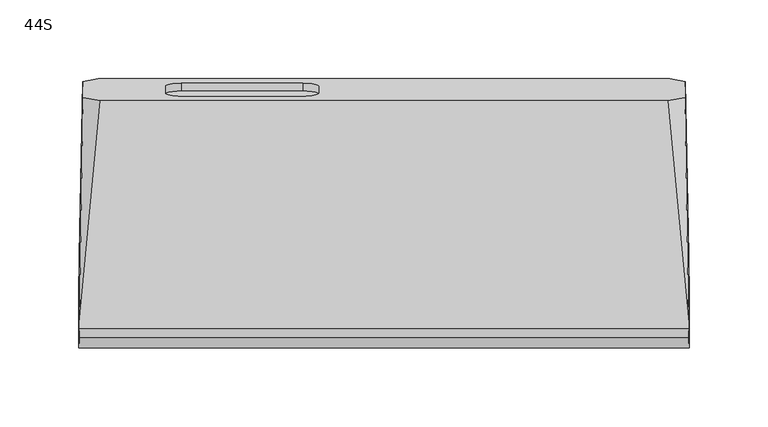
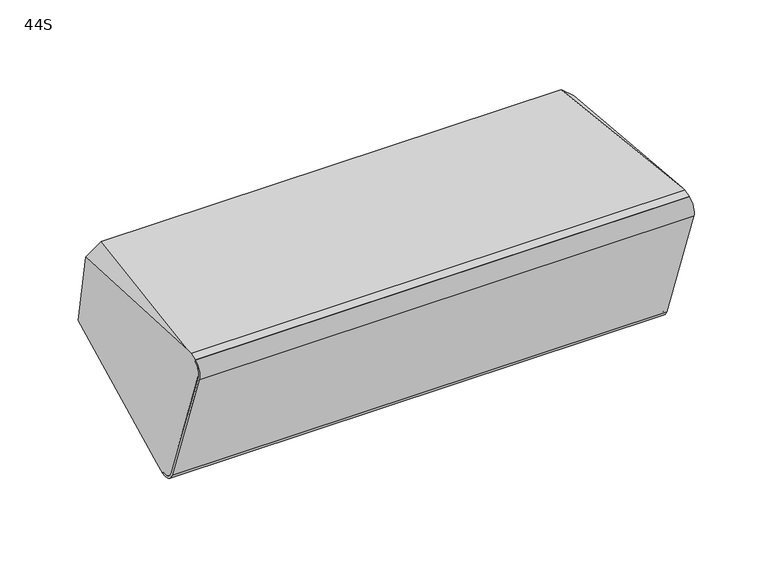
"""IFC4 building model written with IfcOpenShell, lengths in millimetres: proxy geometry, d&b xS-Series 44S Point Source : 44S."""

from ifc_helpers import new_model, si_unit, frame, origin, place, context, project, spatial, polyline, circle_curve, ellipse_curve, source, transform, mapped, element, save
from ifc_brep_helpers import plane_surface, cylinder_surface, revolved_surface, advanced_brep


def proxy_44s_be1570ec(model_context):
    return source(origin(), model_context, "Body", "AdvancedBrep", [
        advanced_brep(
        [(-193.2924342, -40.1304238, -82.7136572), (-193.2924342, -40.7995779, -80.8751713), (-193.4294708, -51.0085421, -76.1146532), (-193.4294708, -87.9735419, 25.4458491), (-193.2918337, -83.1921621, 35.6995512), (-193.2918337, -83.8762023, 37.5789364), (-193.1898069, -78.3036462, 39.607181), (-193.132384, -74.7519113, 39.6074739), (-190.8800877, 68.2424569, 29.4951651), (-191.0574064, 78.5489013, -28.955586), (-193.132384, -31.3887128, -79.5319346), (193.2924342, -40.7995779, -80.8751713), (193.2924342, -40.1304238, -82.7136572), (193.132384, -31.3887128, -79.5319346), (191.0574064, 78.5489013, -28.955586), (190.8800877, 68.2424569, 29.4951651), (193.132384, -74.7519113, 39.6074739), (193.1898069, -78.3036462, 39.607181), (193.2918337, -83.8762023, 37.5789364), (193.2918337, -83.1921621, 35.6995512), (193.4294708, -87.9735419, 25.4458491), (193.4294708, -51.0085421, -76.1146532), (-181.3061997, 80.2990071, -38.880929), (181.3061997, 80.2990071, -38.880929), (179.9289467, 66.4573306, 39.6191191), (-179.9289467, 66.4573306, 39.6191191), (-138.5, 71.1207426, 13.1715959), (-138.5, 75.6355952, -12.4334057), (-128.5, 77.372077, -22.2814833), (-51.5, 77.372077, -22.2814833), (-41.5, 75.6355952, -12.4334057), (-41.5, 71.1207426, 13.1715959), (-51.5, 69.3842608, 23.0196734), (-128.5, 69.3842608, 23.0196734), (-138.5, 66.1967038, 12.303355), (-128.5, 64.460222, 22.1514325), (-51.5, 64.460222, 22.1514325), (-41.5, 66.1967038, 12.303355), (-41.5, 70.7115564, -13.3016466), (-51.5, 72.4480382, -23.1497241), (-128.5, 72.4480382, -23.1497241), (-138.5, 70.7115564, -13.3016466)],
        [
            (0, 1),
            (1, 2, ellipse_curve(frame((-193.2924342, -43.5238009, -73.3904302), z_axis=(-0.999852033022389, 0.016164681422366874, 0.005883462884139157), x_axis=(-0.017202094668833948, -0.9395535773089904, -0.3419695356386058)), 7.9662739, 7.9650952)),
            (2, 3),
            (3, 4, ellipse_curve(frame((-193.2918337, -80.4560009, 28.1820102), z_axis=(-0.999852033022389, 0.016164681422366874, 0.005883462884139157), x_axis=(-0.017202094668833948, -0.9395535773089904, -0.3419695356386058)), 8.0011839, 8.0)),
            (4, 5),
            (5, 6),
            (6, 7),
            (7, 8),
            (8, 9),
            (9, 10),
            (10, 0),
            (11, 12),
            (12, 13),
            (13, 14),
            (14, 15),
            (15, 16),
            (16, 17),
            (17, 18),
            (18, 19),
            (19, 20, ellipse_curve(frame((193.2918337, -80.4560009, 28.1820102), z_axis=(0.9998520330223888, 0.01616468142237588, 0.005883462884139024), x_axis=(-0.017202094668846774, 0.9395535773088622, 0.3419695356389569)), 8.0011839, 8.0)),
            (20, 21),
            (21, 11, ellipse_curve(frame((193.2924342, -43.5238009, -73.3904302), z_axis=(0.9998520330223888, 0.01616468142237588, 0.005883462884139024), x_axis=(-0.017202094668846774, 0.9395535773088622, 0.3419695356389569)), 7.9662739, 7.9650952)),
            (0, 12),
            (11, 1),
            (21, 2),
            (20, 3),
            (19, 4),
            (18, 5),
            (17, 6),
            (10, 22),
            (22, 23),
            (23, 13),
            (16, 24),
            (24, 25),
            (25, 7),
            (9, 22),
            (23, 14),
            (15, 24),
            (25, 8),
            (26, 27),
            (27, 28, circle_curve(frame((-128.5, 75.6355952, -12.4334057), z_axis=(0.0, -0.9848077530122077, -0.17364817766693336), x_axis=(0.0, -0.17364817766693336, 0.9848077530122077)), 10.0)),
            (28, 29),
            (29, 30, circle_curve(frame((-51.5, 75.6355952, -12.4334057), z_axis=(0.0, -0.9848077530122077, -0.17364817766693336), x_axis=(0.0, -0.17364817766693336, 0.9848077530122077)), 10.0)),
            (30, 31),
            (31, 32, circle_curve(frame((-51.5, 71.1207426, 13.1715959), z_axis=(0.0, -0.9848077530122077, -0.17364817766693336), x_axis=(0.0, -0.17364817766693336, 0.9848077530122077)), 10.0)),
            (32, 33),
            (33, 26, circle_curve(frame((-128.5, 71.1207426, 13.1715959), z_axis=(0.0, -0.9848077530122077, -0.17364817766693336), x_axis=(0.0, -0.17364817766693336, 0.9848077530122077)), 10.0)),
            (34, 35, circle_curve(frame((-128.5, 66.1967038, 12.303355), z_axis=(0.0, 0.9848077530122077, 0.17364817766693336), x_axis=(0.0, -0.17364817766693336, 0.9848077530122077)), 10.0)),
            (35, 36),
            (36, 37, circle_curve(frame((-51.5, 66.1967038, 12.303355), z_axis=(0.0, 0.9848077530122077, 0.17364817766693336), x_axis=(0.0, -0.17364817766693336, 0.9848077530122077)), 10.0)),
            (37, 38),
            (38, 39, circle_curve(frame((-51.5, 70.7115564, -13.3016466), z_axis=(0.0, 0.9848077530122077, 0.17364817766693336), x_axis=(0.0, -0.17364817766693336, 0.9848077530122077)), 10.0)),
            (39, 40),
            (40, 41, circle_curve(frame((-128.5, 70.7115564, -13.3016466), z_axis=(0.0, 0.9848077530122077, 0.17364817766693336), x_axis=(0.0, -0.17364817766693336, 0.9848077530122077)), 10.0)),
            (41, 34),
            (41, 27),
            (26, 34),
            (40, 28),
            (39, 29),
            (38, 30),
            (37, 31),
            (36, 32),
            (35, 33),
        ],
        [
            plane_surface(frame((-193.8309972, -125.6372625, 60.6895534), z_axis=(-0.999852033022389, 0.016164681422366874, 0.005883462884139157), x_axis=(0.0, 0.3420201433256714, -0.9396926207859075))),
            plane_surface(frame((190.7119283, 44.7217815, 122.6951745), z_axis=(0.999852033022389, 0.016164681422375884, 0.005883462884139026), x_axis=(0.0, 0.3420201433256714, -0.9396926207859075))),
            plane_surface(frame((-207.1452552, -40.1304238, -82.7136572), z_axis=(0.0, -0.9396926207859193, -0.34202014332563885), x_axis=(1.0, 0.0, 0.0))),
            cylinder_surface(frame((207.1452552, -43.5238009, -73.3904302), z_axis=(-1.0, 0.0, 0.0), x_axis=(0.0, 0.3420201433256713, -0.9396926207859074)), 7.9650952),
            plane_surface(frame((-207.1452552, -51.0085421, -76.1146532), z_axis=(0.0, -0.9396926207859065, -0.342020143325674), x_axis=(1.0, 0.0, 0.0))),
            cylinder_surface(frame((207.1452552, -80.4560009, 28.1820102), z_axis=(-1.0, 0.0, 0.0), x_axis=(0.0, 0.3420201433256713, -0.9396926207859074)), 8.0),
            plane_surface(frame((-207.1452552, -83.1921621, 35.6995512), z_axis=(0.0, -0.9396926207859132, -0.34202014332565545), x_axis=(1.0, 0.0, 0.0))),
            plane_surface(frame((-207.1452552, -83.8762023, 37.5789364), z_axis=(0.0, -0.3420201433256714, 0.9396926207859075), x_axis=(1.0, 0.0, 0.0))),
            plane_surface(frame((-207.1452552, -34.5250679, -80.6734745), z_axis=(0.0, 0.3420201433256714, -0.9396926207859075), x_axis=(1.0, 0.0, 0.0))),
            plane_surface(frame((0.0, 66.4573306, 39.6191191), z_axis=(0.0, -8.246800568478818e-05, 0.9999999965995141), x_axis=(-1.0, 0.0, 0.0))),
            plane_surface(frame((-186.6967137, 90.9912157, -27.7871762), z_axis=(-0.7053631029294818, 0.3071997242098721, -0.6388201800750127), x_axis=(0.7071067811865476, 0.2418447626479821, -0.6644630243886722))),
            plane_surface(frame((186.6967137, 90.9912157, -27.7871762), z_axis=(0.7053631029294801, 0.3071997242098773, -0.6388201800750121), x_axis=(0.7071067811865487, -0.24184476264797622, 0.6644630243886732))),
            plane_surface(frame((186.6967137, 68.7720433, 33.2594985), z_axis=(0.6719558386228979, 0.06276879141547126, 0.7379264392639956), x_axis=(-0.7071067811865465, -0.24184476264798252, 0.6644630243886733))),
            plane_surface(frame((-186.6967137, 68.7720433, 33.2594985), z_axis=(-0.6719558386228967, 0.06276879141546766, 0.7379264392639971), x_axis=(-0.7071067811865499, 0.2418447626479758, -0.6644630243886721))),
            plane_surface(frame((-250.0, 83.3421534, -56.1394693), z_axis=(0.0, 0.9848077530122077, 0.17364817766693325), x_axis=(1.0, 0.0, 0.0))),
            plane_surface(frame((-138.5, 75.3749683, -39.7491699), z_axis=(0.0, 0.9848077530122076, 0.17364817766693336), x_axis=(0.0, 0.17364817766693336, -0.9848077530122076))),
            plane_surface(frame((-138.5, 66.1967038, 12.303355), z_axis=(1.0000000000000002, 0.0, 0.0), x_axis=(0.0, 0.9848077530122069, 0.17364817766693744))),
            revolved_surface(polyline([(-128.5, 68.97507462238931, -3.4535690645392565), (-128.5, 73.899113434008, -2.585328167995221)]), (-128.5, 75.6355952, -12.4334057), (0.0, -0.9848077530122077, -0.17364817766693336)),
            plane_surface(frame((-128.5, 72.4480382, -23.1497241), z_axis=(0.0, -0.17364817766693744, 0.9848077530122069), x_axis=(0.0, 0.9848077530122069, 0.17364817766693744))),
            revolved_surface(polyline([(-51.5, 68.97507462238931, -3.4535690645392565), (-51.5, 73.899113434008, -2.585328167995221)]), (-51.5, 75.6355952, -12.4334057), (0.0, -0.9848077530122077, -0.17364817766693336)),
            plane_surface(frame((-41.5, 70.7115564, -13.3016466), z_axis=(-1.0000000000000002, 0.0, 0.0), x_axis=(0.0, 0.9848077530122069, 0.17364817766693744))),
            revolved_surface(polyline([(-51.5, 64.46022199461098, 22.151432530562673), (-51.5, 69.38426082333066, 23.019673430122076)]), (-51.5, 71.1207426, 13.1715959), (0.0, -0.9848077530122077, -0.17364817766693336)),
            plane_surface(frame((-51.5, 64.460222, 22.1514325), z_axis=(0.0, 0.17364817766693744, -0.9848077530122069), x_axis=(0.0, 0.9848077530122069, 0.17364817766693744))),
            revolved_surface(polyline([(-128.5, 64.46022199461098, 22.151432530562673), (-128.5, 69.38426082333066, 23.019673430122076)]), (-128.5, 71.1207426, 13.1715959), (0.0, -0.9848077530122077, -0.17364817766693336)),
        ],
        [
            (0, [[1, 2, 3, 4, 5, 6, 7, 8, 9, 10, 11]]),
            (1, [[12, 13, 14, 15, 16, 17, 18, 19, 20, 21, 22]]),
            (2, [[23, -12, 24, -1]]),
            (3, [[-24, -22, 25, -2]]),
            (4, [[-25, -21, 26, -3]]),
            (5, [[-26, -20, 27, -4]]),
            (6, [[-27, -19, 28, -5]]),
            (7, [[-28, -18, 29, -6]]),
            (8, [[-23, -11, 30, 31, 32, -13]]),
            (9, [[-29, -17, 33, 34, 35, -7]]),
            (10, [[-30, -10, 36]]),
            (11, [[-32, 37, -14]]),
            (12, [[-33, -16, 38]]),
            (13, [[-35, 39, -8]]),
            (14, [[-31, -36, -9, -39, -34, -38, -15, -37], [40, 41, 42, 43, 44, 45, 46, 47]]),
            (15, [[48, 49, 50, 51, 52, 53, 54, 55]]),
            (16, [[-55, 56, -40, 57]]),
            (17, [[-54, 58, -41, -56]]),
            (18, [[-53, 59, -42, -58]]),
            (19, [[-52, 60, -43, -59]]),
            (20, [[-51, 61, -44, -60]]),
            (21, [[-50, 62, -45, -61]]),
            (22, [[-49, 63, -46, -62]]),
            (23, [[-48, -57, -47, -63]]),
        ],
    ),
        advanced_brep(
        [(-193.4294708, -87.9735419, 25.4458491), (-193.4294708, -51.0085421, -76.1146532), (-193.2924342, -40.7995779, -80.8751713), (-193.2924342, -40.1304238, -82.7136572), (-193.4644806, -52.9475514, -76.7369324), (-193.4644806, -89.8857269, 24.7498706), (-193.2918337, -83.8881405, 37.6117362), (-193.2918337, -83.1921621, 35.6995512), (193.4294708, -51.0085421, -76.1146532), (193.4294708, -87.9735419, 25.4458491), (193.2918337, -83.1921621, 35.6995512), (193.2918337, -83.8881405, 37.6117362), (193.4644806, -89.8857269, 24.7498706), (193.4644806, -52.9475514, -76.7369324), (193.2924342, -40.1304238, -82.7136572), (193.2924342, -40.7995779, -80.8751713)],
        [
            (0, 1),
            (1, 2, ellipse_curve(frame((-193.2924342, -43.5238009, -73.3904302), z_axis=(0.999852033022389, -0.016164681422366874, -0.005883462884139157), x_axis=(0.017202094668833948, 0.9395535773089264, 0.34196953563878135)), 7.9662739, 7.9650952)),
            (2, 3),
            (3, 4, ellipse_curve(frame((-193.2924342, -43.5506252, -73.316731), z_axis=(-0.999852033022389, 0.016164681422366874, 0.005883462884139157), x_axis=(-0.017202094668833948, -0.9395535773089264, -0.34196953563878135)), 10.0014799, 10.0)),
            (4, 5),
            (5, 6, ellipse_curve(frame((-193.2918337, -80.4560009, 28.1820102), z_axis=(-0.999852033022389, 0.016164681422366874, 0.005883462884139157), x_axis=(-0.017202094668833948, -0.9395535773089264, -0.34196953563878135)), 10.0363899, 10.0349048)),
            (6, 7),
            (7, 0, ellipse_curve(frame((-193.2918337, -80.4560009, 28.1820102), z_axis=(0.999852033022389, -0.016164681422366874, -0.005883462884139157), x_axis=(0.017202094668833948, 0.9395535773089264, 0.34196953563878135)), 8.0011839, 8.0)),
            (8, 9),
            (9, 10, ellipse_curve(frame((193.2918337, -80.4560009, 28.1820102), z_axis=(-0.9998520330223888, -0.01616468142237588, -0.005883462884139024), x_axis=(0.017202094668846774, -0.9395535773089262, -0.34196953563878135)), 8.0011839, 8.0)),
            (10, 11),
            (11, 12, ellipse_curve(frame((193.2918337, -80.4560009, 28.1820102), z_axis=(0.9998520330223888, 0.01616468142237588, 0.005883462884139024), x_axis=(-0.017202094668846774, 0.9395535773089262, 0.34196953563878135)), 10.0363899, 10.0349048)),
            (12, 13),
            (13, 14, ellipse_curve(frame((193.2924342, -43.5506252, -73.316731), z_axis=(0.9998520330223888, 0.01616468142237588, 0.005883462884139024), x_axis=(-0.017202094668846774, 0.9395535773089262, 0.34196953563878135)), 10.0014799, 10.0)),
            (14, 15),
            (15, 8, ellipse_curve(frame((193.2924342, -43.5238009, -73.3904302), z_axis=(-0.9998520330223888, -0.01616468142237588, -0.005883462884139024), x_axis=(0.017202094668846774, -0.9395535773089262, -0.34196953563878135)), 7.9662739, 7.9650952)),
            (0, 9),
            (8, 1),
            (15, 2),
            (14, 3),
            (13, 4),
            (12, 5),
            (11, 6),
            (10, 7),
        ],
        [
            plane_surface(frame((-193.8309972, -125.6372625, 60.6895534), z_axis=(-0.999852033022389, 0.016164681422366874, 0.005883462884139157), x_axis=(0.0, 0.3420201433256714, -0.9396926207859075))),
            plane_surface(frame((190.7119283, 44.7217815, 122.6951745), z_axis=(0.999852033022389, 0.016164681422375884, 0.005883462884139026), x_axis=(0.0, 0.3420201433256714, -0.9396926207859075))),
            plane_surface(frame((-202.5, -87.9735419, 25.4458491), z_axis=(0.0, 0.9396926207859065, 0.342020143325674), x_axis=(1.0, 0.0, 0.0))),
            revolved_surface(polyline([(193.4294708, -46.24802390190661, -65.90568901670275), (-193.4294708, -46.24802390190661, -65.90568901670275)]), (202.5, -43.5238009, -73.3904302), (1.0, 0.0, 0.0)),
            plane_surface(frame((-202.5, -40.7995779, -80.8751713), z_axis=(0.0, 0.9396926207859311, 0.3420201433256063), x_axis=(1.0, 0.0, 0.0))),
            cylinder_surface(frame((202.5, -43.5506252, -73.316731), z_axis=(-1.0, 0.0, 0.0), x_axis=(0.0, -0.3420201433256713, 0.9396926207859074)), 10.0),
            plane_surface(frame((-202.5, -52.9475514, -76.7369324), z_axis=(0.0, -0.9396926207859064, -0.34202014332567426), x_axis=(1.0, 0.0, 0.0))),
            cylinder_surface(frame((202.5, -80.4560009, 28.1820102), z_axis=(-1.0, 0.0, 0.0), x_axis=(0.0, -0.3420201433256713, 0.9396926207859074)), 10.0349048),
            plane_surface(frame((-202.5, -83.8881405, 37.6117362), z_axis=(0.0, 0.9396926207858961, 0.3420201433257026), x_axis=(1.0, 0.0, 0.0))),
            revolved_surface(polyline([(193.42947082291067, -83.19216204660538, 35.69955116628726), (-193.42947082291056, -83.19216204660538, 35.69955116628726)]), (202.5, -80.4560009, 28.1820102), (1.0, 0.0, 0.0)),
        ],
        [
            (0, [[1, 2, 3, 4, 5, 6, 7, 8]]),
            (1, [[9, 10, 11, 12, 13, 14, 15, 16]]),
            (2, [[17, -9, 18, -1]]),
            (3, [[-18, -16, 19, -2]]),
            (4, [[-19, -15, 20, -3]]),
            (5, [[-20, -14, 21, -4]]),
            (6, [[-21, -13, 22, -5]]),
            (7, [[-22, -12, 23, -6]]),
            (8, [[-23, -11, 24, -7]]),
            (9, [[-17, -8, -24, -10]]),
        ],
    ),
        advanced_brep(
        [(-193.4294708, -87.9735419, 25.4458491), (-193.4294708, -51.0085421, -76.1146532), (-193.2924342, -40.7995779, -80.8751713), (-193.2924342, -40.1304238, -82.7136572), (-193.4644806, -52.9475514, -76.7369324), (-193.4644806, -89.8857269, 24.7498706), (-193.2918337, -83.8881405, 37.6117362), (-193.2918337, -83.1921621, 35.6995512), (193.4294708, -51.0085421, -76.1146532), (193.4294708, -87.9735419, 25.4458491), (193.2918337, -83.1921621, 35.6995512), (193.2918337, -83.8881405, 37.6117362), (193.4644806, -89.8857269, 24.7498706), (193.4644806, -52.9475514, -76.7369324), (193.2924342, -40.1304238, -82.7136572), (193.2924342, -40.7995779, -80.8751713)],
        [
            (0, 1),
            (1, 2, ellipse_curve(frame((-193.2924342, -43.5238009, -73.3904302), z_axis=(0.999852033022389, -0.016164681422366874, -0.005883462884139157), x_axis=(0.017202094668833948, 0.9395535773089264, 0.34196953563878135)), 7.9662739, 7.9650952)),
            (2, 3),
            (3, 4, ellipse_curve(frame((-193.2924342, -43.5506252, -73.316731), z_axis=(-0.999852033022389, 0.016164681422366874, 0.005883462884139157), x_axis=(-0.017202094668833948, -0.9395535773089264, -0.34196953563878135)), 10.0014799, 10.0)),
            (4, 5),
            (5, 6, ellipse_curve(frame((-193.2918337, -80.4560009, 28.1820102), z_axis=(-0.999852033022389, 0.016164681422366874, 0.005883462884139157), x_axis=(-0.017202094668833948, -0.9395535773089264, -0.34196953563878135)), 10.0363899, 10.0349048)),
            (6, 7),
            (7, 0, ellipse_curve(frame((-193.2918337, -80.4560009, 28.1820102), z_axis=(0.999852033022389, -0.016164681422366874, -0.005883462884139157), x_axis=(0.017202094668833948, 0.9395535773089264, 0.34196953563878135)), 8.0011839, 8.0)),
            (8, 9),
            (9, 10, ellipse_curve(frame((193.2918337, -80.4560009, 28.1820102), z_axis=(-0.9998520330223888, -0.01616468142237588, -0.005883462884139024), x_axis=(0.017202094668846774, -0.9395535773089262, -0.34196953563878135)), 8.0011839, 8.0)),
            (10, 11),
            (11, 12, ellipse_curve(frame((193.2918337, -80.4560009, 28.1820102), z_axis=(0.9998520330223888, 0.01616468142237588, 0.005883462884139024), x_axis=(-0.017202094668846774, 0.9395535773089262, 0.34196953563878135)), 10.0363899, 10.0349048)),
            (12, 13),
            (13, 14, ellipse_curve(frame((193.2924342, -43.5506252, -73.316731), z_axis=(0.9998520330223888, 0.01616468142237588, 0.005883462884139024), x_axis=(-0.017202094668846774, 0.9395535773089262, 0.34196953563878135)), 10.0014799, 10.0)),
            (14, 15),
            (15, 8, ellipse_curve(frame((193.2924342, -43.5238009, -73.3904302), z_axis=(-0.9998520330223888, -0.01616468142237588, -0.005883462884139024), x_axis=(0.017202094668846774, -0.9395535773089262, -0.34196953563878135)), 7.9662739, 7.9650952)),
            (0, 9),
            (8, 1),
            (15, 2),
            (14, 3),
            (13, 4),
            (12, 5),
            (11, 6),
            (10, 7),
        ],
        [
            plane_surface(frame((-193.8309972, -125.6372625, 60.6895534), z_axis=(-0.999852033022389, 0.016164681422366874, 0.005883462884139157), x_axis=(0.0, 0.3420201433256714, -0.9396926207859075))),
            plane_surface(frame((190.7119283, 44.7217815, 122.6951745), z_axis=(0.999852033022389, 0.016164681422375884, 0.005883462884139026), x_axis=(0.0, 0.3420201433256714, -0.9396926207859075))),
            plane_surface(frame((-202.5, -87.9735419, 25.4458491), z_axis=(0.0, 0.9396926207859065, 0.342020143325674), x_axis=(1.0, 0.0, 0.0))),
            revolved_surface(polyline([(193.4294708, -46.24802390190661, -65.90568901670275), (-193.4294708, -46.24802390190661, -65.90568901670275)]), (202.5, -43.5238009, -73.3904302), (1.0, 0.0, 0.0)),
            plane_surface(frame((-202.5, -40.7995779, -80.8751713), z_axis=(0.0, 0.9396926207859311, 0.3420201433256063), x_axis=(1.0, 0.0, 0.0))),
            cylinder_surface(frame((202.5, -43.5506252, -73.316731), z_axis=(-1.0, 0.0, 0.0), x_axis=(0.0, -0.3420201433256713, 0.9396926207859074)), 10.0),
            plane_surface(frame((-202.5, -52.9475514, -76.7369324), z_axis=(0.0, -0.9396926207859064, -0.34202014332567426), x_axis=(1.0, 0.0, 0.0))),
            cylinder_surface(frame((202.5, -80.4560009, 28.1820102), z_axis=(-1.0, 0.0, 0.0), x_axis=(0.0, -0.3420201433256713, 0.9396926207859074)), 10.0349048),
            plane_surface(frame((-202.5, -83.8881405, 37.6117362), z_axis=(0.0, 0.9396926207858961, 0.3420201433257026), x_axis=(1.0, 0.0, 0.0))),
            revolved_surface(polyline([(193.42947082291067, -83.19216204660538, 35.69955116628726), (-193.42947082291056, -83.19216204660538, 35.69955116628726)]), (202.5, -80.4560009, 28.1820102), (1.0, 0.0, 0.0)),
        ],
        [
            (0, [[1, 2, 3, 4, 5, 6, 7, 8]]),
            (1, [[9, 10, 11, 12, 13, 14, 15, 16]]),
            (2, [[17, -9, 18, -1]]),
            (3, [[-18, -16, 19, -2]]),
            (4, [[-19, -15, 20, -3]]),
            (5, [[-20, -14, 21, -4]]),
            (6, [[-21, -13, 22, -5]]),
            (7, [[-22, -12, 23, -6]]),
            (8, [[-23, -11, 24, -7]]),
            (9, [[-17, -8, -24, -10]]),
        ],
    ),
    ])


if __name__ == "__main__":
    model = new_model("IFC4")
    model_context = context("Model", 3, world=origin())
    ifc_project = project(units=[si_unit("LENGTHUNIT", "METRE", prefix="MILLI")], contexts=[model_context])
    site = spatial("IfcSite", under=ifc_project)
    building = spatial("IfcBuilding", under=site)
    placement = place(None, origin())
    proxy_44s_shape = proxy_44s_be1570ec(model_context)
    element("IfcBuildingElementProxy", 1, Name="d&b xS-Series 44S Point Source : 44S", ObjectType="d&b xS-Series 44S Point Source : 44S", at=placement, inside=building, context=model_context, shape_type="MappedRepresentation", body=[
        mapped(proxy_44s_shape, transform((0.0, 0.0, 0.0), x_axis=(1.0, 0.0, 0.0), y_axis=(0.0, 1.0, 0.0), z_axis=(0.0, 0.0, 1.0))),
    ])
    save(model, "model.ifc")
